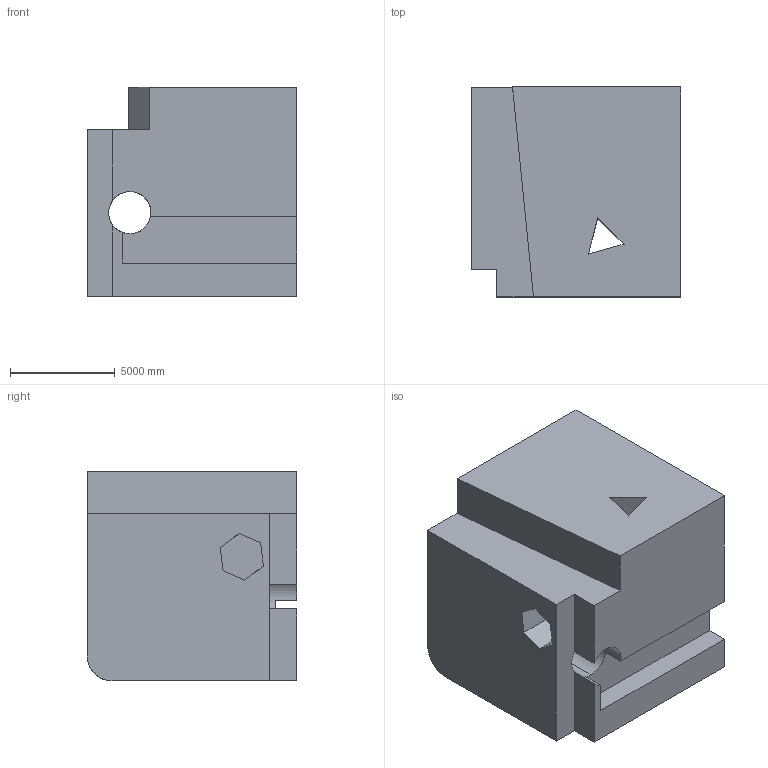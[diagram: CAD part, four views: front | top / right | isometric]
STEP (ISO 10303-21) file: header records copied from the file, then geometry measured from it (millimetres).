
FILE_DESCRIPTION (( 'STEP AP203' ), '1' );
FILE_NAME ('1915.STEP', '2022-08-23T09:26:18', ( 'user' ), ( '' ), 'SwSTEP 2.0', 'SolidWorks 2021', '' );
FILE_SCHEMA (( 'CONFIG_CONTROL_DESIGN' ));
Length unit declared in the file: centimetre
Products named in the file (1): 1915
Bounding box: 10000 x 10000 x 10000 mm (x, y, z)
Volume: 816518964414.9 mm3; surface area: 789824380 mm2
Topology: 1 solids, 1 shells, 53 faces, 162 edges, 108 vertices
Faces by surface type: plane 44, cylinder 9
Entity records: 2062 total; most frequent: CARTESIAN_POINT 563, ORIENTED_EDGE 324, DIRECTION 264, EDGE_CURVE 162, LINE 122, VECTOR 122, VERTEX_POINT 108, AXIS2_PLACEMENT_3D 71
